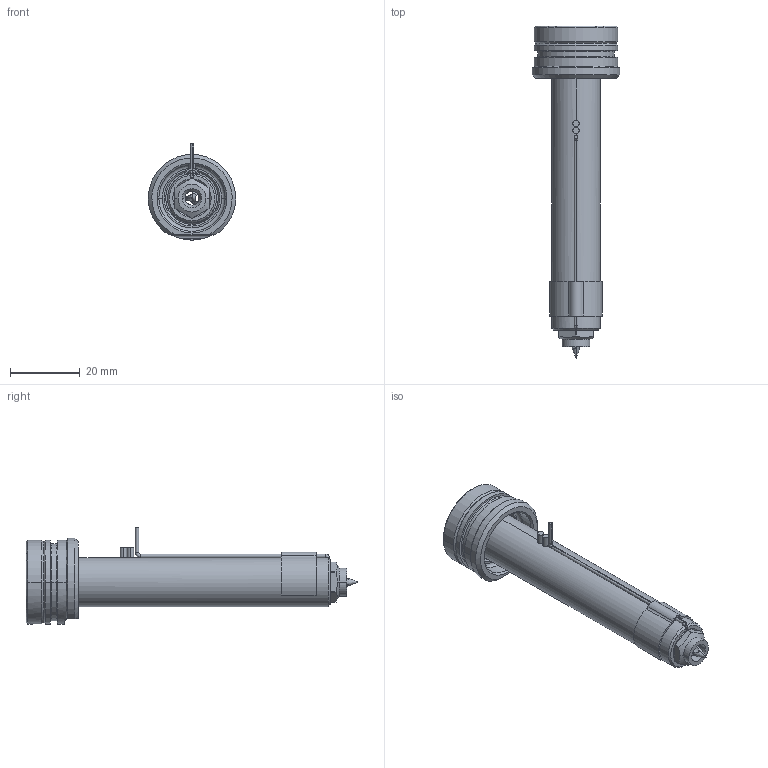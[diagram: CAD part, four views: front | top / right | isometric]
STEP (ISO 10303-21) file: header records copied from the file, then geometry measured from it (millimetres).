
FILE_DESCRIPTION((''),'2;1');
FILE_NAME('EO04_PG-BL_STD_080_SW','2024-02-19T10:57:42',('sundharh'),(''),'CREO PARAMETRIC BY PTC INC, 2023154','CREO PARAMETRIC BY PTC INC, 2023154','');
FILE_SCHEMA(('CONFIG_CONTROL_DESIGN'));
Length unit declared in the file: millimetre
Products named in the file (1): EO04_PG-BL_STD_080_SW
Bounding box: 24.99 x 95 x 27.5 mm (x, y, z)
Volume: 16436.3 mm3; surface area: 8576.5 mm2
Topology: 2 solids, 2 shells, 222 faces, 595 edges, 364 vertices
Faces by surface type: cylinder 84, plane 59, cone 44, torus 22, bspline 11, sphere 2
Entity records: 8161 total; most frequent: CARTESIAN_POINT 2554, DIRECTION 1219, ORIENTED_EDGE 1178, EDGE_CURVE 589, AXIS2_PLACEMENT_3D 511, VERTEX_POINT 364, CIRCLE 300, EDGE_LOOP 237
